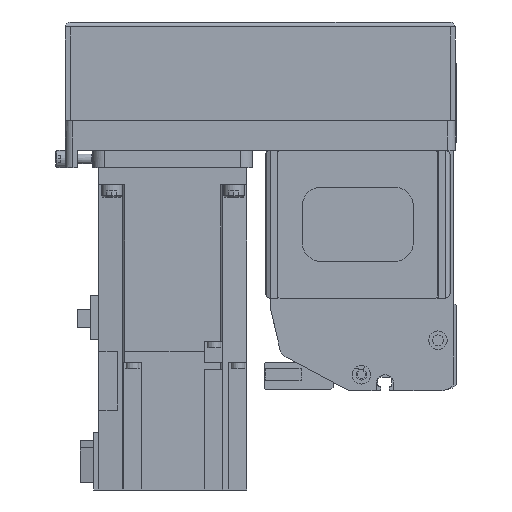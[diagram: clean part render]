
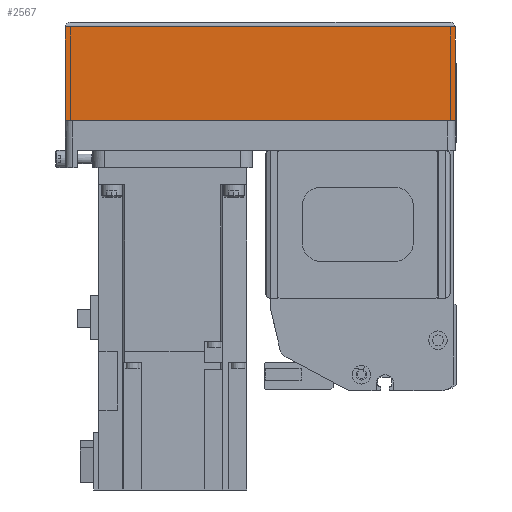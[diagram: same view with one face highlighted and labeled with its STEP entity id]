
A CAD part, left-side view. The second image highlights one B-rep face of the part: STEP entity #2567.
In plain terms, the highlighted planar face has unit normal (-1, 0, 0) as drawn and (0, 1, 0) by its records, which use the part's own axes.
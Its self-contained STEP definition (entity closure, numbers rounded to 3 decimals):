
#2567 = ADVANCED_FACE( '', ( #5736 ), #5737, .T. );
#5736 = FACE_OUTER_BOUND( '', #9415, .T. );
#5737 = PLANE( '', #9416 );
#9415 = EDGE_LOOP( '', ( #16697, #16698, #16699, #16700 ) );
#9416 = AXIS2_PLACEMENT_3D( '', #16701, #16702, #16703 );
#16697 = ORIENTED_EDGE( '', *, *, #23312, .F. );
#16698 = ORIENTED_EDGE( '', *, *, #21392, .F. );
#16699 = ORIENTED_EDGE( '', *, *, #21136, .T. );
#16700 = ORIENTED_EDGE( '', *, *, #22197, .T. );
#16701 = CARTESIAN_POINT( '', ( -158., 39., -50. ) );
#16702 = DIRECTION( '', ( 0., 1., 0. ) );
#16703 = DIRECTION( '', ( 0., 0., 1. ) );
#21136 = EDGE_CURVE( '', #25382, #25379, #25383, .T. );
#21392 = EDGE_CURVE( '', #25382, #25816, #25817, .T. );
#22197 = EDGE_CURVE( '', #25379, #26639, #27105, .T. );
#23312 = EDGE_CURVE( '', #25816, #26639, #28694, .T. );
#25379 = VERTEX_POINT( '', #31578 );
#25382 = VERTEX_POINT( '', #31582 );
#25383 = LINE( '', #31583, #31584 );
#25816 = VERTEX_POINT( '', #32198 );
#25817 = LINE( '', #32199, #32200 );
#26639 = VERTEX_POINT( '', #33666 );
#27105 = LINE( '', #34389, #34390 );
#28694 = LINE( '', #36958, #36959 );
#31578 = CARTESIAN_POINT( '', ( -158., 39., -12.1 ) );
#31582 = CARTESIAN_POINT( '', ( -158., 39., -50. ) );
#31583 = CARTESIAN_POINT( '', ( -158., 39., -50. ) );
#31584 = VECTOR( '', #39318, 1000. );
#32198 = CARTESIAN_POINT( '', ( 0., 39., -50. ) );
#32199 = CARTESIAN_POINT( '', ( -158., 39., -50. ) );
#32200 = VECTOR( '', #39661, 1000. );
#33666 = CARTESIAN_POINT( '', ( 0., 39., -12.1 ) );
#34389 = CARTESIAN_POINT( '', ( -158., 39., -12.1 ) );
#34390 = VECTOR( '', #40616, 1000. );
#36958 = CARTESIAN_POINT( '', ( 0., 39., -50. ) );
#36959 = VECTOR( '', #41954, 1000. );
#39318 = DIRECTION( '', ( 0., 0., 1. ) );
#39661 = DIRECTION( '', ( 1., 0., 0. ) );
#40616 = DIRECTION( '', ( 1., 0., 0. ) );
#41954 = DIRECTION( '', ( 0., 0., 1. ) );
